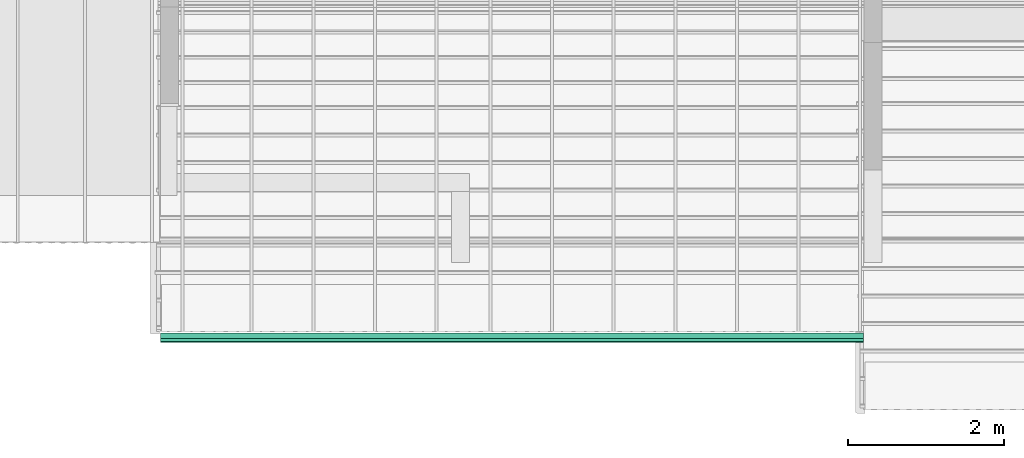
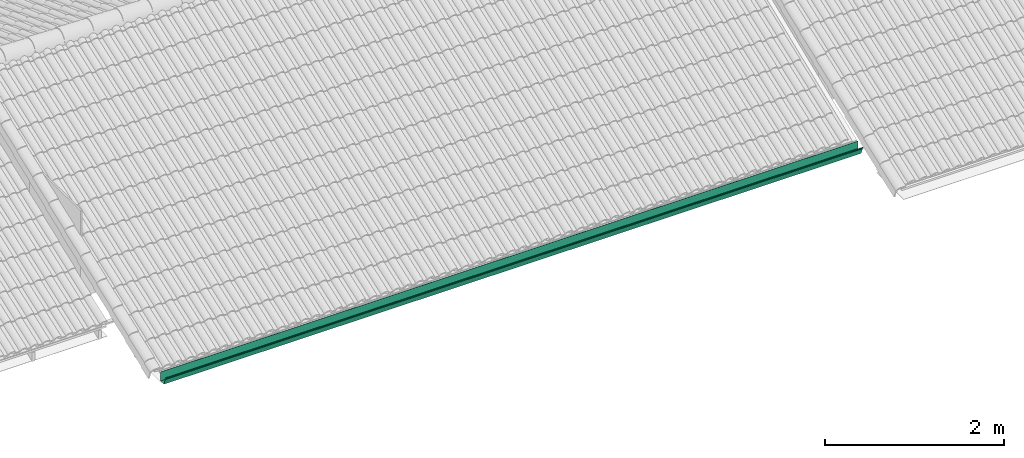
# One storey, part 3 of 5: 1 flow segment.
"""IFC2X3 building model written with IfcOpenShell, lengths in millimetres."""

from ifc_helpers import new_model, entity, si_unit, converted_unit, derived_unit, direction, frame, origin, place, context, subcontext, project, spatial, polyline, outline, extrude, source, transform, mapped, type_object, type_shapes, element, save


model = new_model("IFC2X3")

# Units and contexts
model_context = context("Model", 3, precision=0.01, world=origin(), true_north=direction((6.12303176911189e-17, 1.0)))
body_context = subcontext(model_context, "Body", "Model", "MODEL_VIEW")
ifc_project = project(units=[si_unit("LENGTHUNIT", "METRE", prefix="MILLI"), si_unit("AREAUNIT", "SQUARE_METRE"), si_unit("VOLUMEUNIT", "CUBIC_METRE"), converted_unit("PLANEANGLEUNIT", "DEGREE", entity("IfcRatioMeasure", 0.0174532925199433), si_unit("PLANEANGLEUNIT", "RADIAN"), dimensions=[0, 0, 0, 0, 0, 0, 0]), si_unit("MASSUNIT", "GRAM", prefix="KILO"), derived_unit("MASSDENSITYUNIT", [(si_unit("MASSUNIT", "GRAM", prefix="KILO"), 1), (si_unit("LENGTHUNIT", "METRE"), -3)]), si_unit("TIMEUNIT", "SECOND"), si_unit("FREQUENCYUNIT", "HERTZ"), si_unit("THERMODYNAMICTEMPERATUREUNIT", "DEGREE_CELSIUS"), derived_unit("THERMALTRANSMITTANCEUNIT", [(si_unit("MASSUNIT", "GRAM", prefix="KILO"), 1), (si_unit("THERMODYNAMICTEMPERATUREUNIT", "KELVIN"), -1), (si_unit("TIMEUNIT", "SECOND"), -3)]), derived_unit("VOLUMETRICFLOWRATEUNIT", [(si_unit("LENGTHUNIT", "METRE"), 3), (si_unit("TIMEUNIT", "SECOND"), -1)]), si_unit("ELECTRICCURRENTUNIT", "AMPERE"), si_unit("ELECTRICVOLTAGEUNIT", "VOLT"), si_unit("POWERUNIT", "WATT"), si_unit("FORCEUNIT", "NEWTON", prefix="KILO"), si_unit("ILLUMINANCEUNIT", "LUX"), si_unit("LUMINOUSFLUXUNIT", "LUMEN"), si_unit("LUMINOUSINTENSITYUNIT", "CANDELA"), derived_unit("USERDEFINED", [(si_unit("MASSUNIT", "GRAM", prefix="KILO"), -1), (si_unit("LENGTHUNIT", "METRE"), -2), (si_unit("TIMEUNIT", "SECOND"), 3), (si_unit("LUMINOUSFLUXUNIT", "LUMEN"), 1)]), derived_unit("LINEARVELOCITYUNIT", [(si_unit("LENGTHUNIT", "METRE"), 1), (si_unit("TIMEUNIT", "SECOND"), -1)]), si_unit("PRESSUREUNIT", "PASCAL"), derived_unit("USERDEFINED", [(si_unit("LENGTHUNIT", "METRE"), -2), (si_unit("MASSUNIT", "GRAM", prefix="KILO"), 1), (si_unit("TIMEUNIT", "SECOND"), -2)])], contexts=[model_context])

# Site, building, storey
site_placement = place(None, origin())
site = spatial("IfcSite", under=ifc_project, at=site_placement, Name="Surface", CompositionType="ELEMENT")
building_placement = place(site_placement, origin())
building = spatial("IfcBuilding", under=site, at=building_placement, CompositionType="ELEMENT")
storey_placement = place(building_placement, frame((0.0, 0.0, 2765.0)))
storey = spatial("IfcBuildingStorey", under=building, at=storey_placement, Name="U.S.W.P", CompositionType="ELEMENT", Elevation=2765.0)

# Flow segment
pipe_segment_type = type_object("IfcPipeSegmentType", Name="Gutter:Gutter", PredefinedType="GUTTER")
shared_shape = source(origin(), body_context, "Body", "SweptSolid", [
    extrude(outline(polyline([(-78.7908803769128, -78.0625289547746), (46.1213521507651, -78.0625289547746), (46.1213521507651, -74.8875289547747), (-75.6158803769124, -74.8875289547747), (-75.6158803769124, -6.22482627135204), (23.8963521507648, 31.8751737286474), (23.8963521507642, 43.7624710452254), (30.2463521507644, 43.7624710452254), (30.2463521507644, 34.2374710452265), (33.4213521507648, 34.2374710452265), (33.4213521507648, 46.9374710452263), (20.7213521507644, 46.9374710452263), (20.7213521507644, 34.2374710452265), (-78.7908803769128, -3.862528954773), (-78.7908803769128, -78.0625289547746)])), frame((-9056.87517007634, 2882.52834701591, -0.437359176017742), z_axis=(1.0, 0.0, 0.0), x_axis=(0.0, 0.0, 1.0)), (0.0, 0.0, 1.0), 9009.99999999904),
])
type_shapes(pipe_segment_type, [shared_shape])
flow_segment_placement = place(storey_placement, origin())
element("IfcFlowSegment", 1, at=flow_segment_placement, inside=storey, type_object=pipe_segment_type, Name="Gutter:Gutter", ObjectType="Gutter:Gutter", context=body_context, shape_type="MappedRepresentation", body=[
    mapped(shared_shape, transform((0.0, 0.0, 0.0), scale=1.0)),
])

save(model, "model.ifc")
